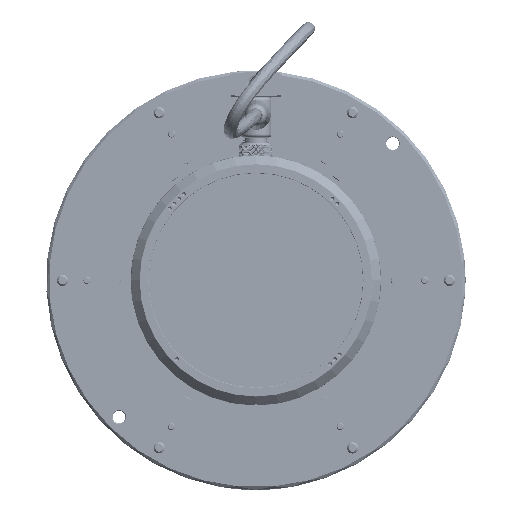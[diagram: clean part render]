
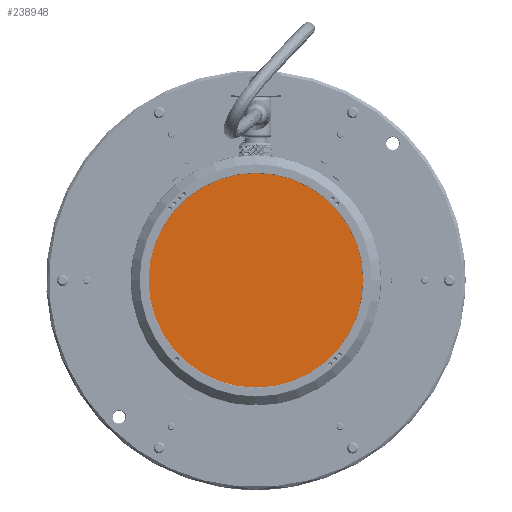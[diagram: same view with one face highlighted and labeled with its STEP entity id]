
A CAD part, front view. The second image highlights one B-rep face of the part: STEP entity #238948.
In plain terms, the highlighted planar face has unit normal (0, -1, 0).
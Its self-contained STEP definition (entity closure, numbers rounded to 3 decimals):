
#37038 = FACE_OUTER_BOUND ( 'NONE', #355668, .T. ) ;
#56644 = CARTESIAN_POINT ( 'NONE',  ( 0., -174.422, 0. ) ) ;
#58436 = AXIS2_PLACEMENT_3D ( 'NONE', #284563, #336008, #490319 ) ;
#110802 = CARTESIAN_POINT ( 'NONE',  ( 76.2, -174.422, 0. ) ) ;
#119587 = ORIENTED_EDGE ( 'NONE', *, *, #480338, .F. ) ;
#139719 = DIRECTION ( 'NONE',  ( 0., 1., 0. ) ) ;
#179982 = CARTESIAN_POINT ( 'NONE',  ( 0., -174.422, 0. ) ) ;
#238948 = ADVANCED_FACE ( 'NONE', ( #37038 ), #633540, .F. ) ;
#284563 = CARTESIAN_POINT ( 'NONE',  ( 0., -174.422, 0. ) ) ;
#336008 = DIRECTION ( 'NONE',  ( 0., 1., 0. ) ) ;
#355668 = EDGE_LOOP ( 'NONE', ( #119587, #566986 ) ) ;
#356802 = AXIS2_PLACEMENT_3D ( 'NONE', #179982, #139719, #492716 ) ;
#391732 = VERTEX_POINT ( 'NONE', #110802 ) ;
#408459 = DIRECTION ( 'NONE',  ( 1., 0., 0. ) ) ;
#425718 = EDGE_CURVE ( 'NONE', #391732, #565210, #468185, .T. ) ;
#468185 = CIRCLE ( 'NONE', #662614, 76.2 ) ;
#480338 = EDGE_CURVE ( 'NONE', #565210, #391732, #615752, .T. ) ;
#490319 = DIRECTION ( 'NONE',  ( 1., 0., 0. ) ) ;
#492716 = DIRECTION ( 'NONE',  ( 0., 0., -1. ) ) ;
#565210 = VERTEX_POINT ( 'NONE', #630016 ) ;
#566986 = ORIENTED_EDGE ( 'NONE', *, *, #425718, .F. ) ;
#583269 = DIRECTION ( 'NONE',  ( 0., 1., 0. ) ) ;
#615752 = CIRCLE ( 'NONE', #58436, 76.2 ) ;
#630016 = CARTESIAN_POINT ( 'NONE',  ( -76.2, -174.422, 0. ) ) ;
#633540 = PLANE ( 'NONE',  #356802 ) ;
#662614 = AXIS2_PLACEMENT_3D ( 'NONE', #56644, #583269, #408459 ) ;
